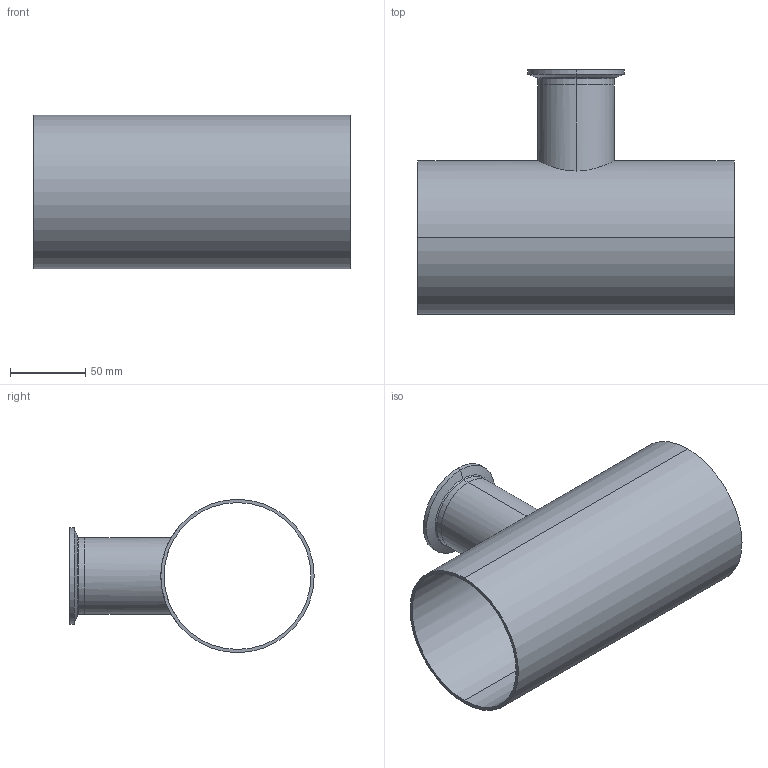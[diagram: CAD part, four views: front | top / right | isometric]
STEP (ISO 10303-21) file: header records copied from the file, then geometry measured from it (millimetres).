
FILE_DESCRIPTION (( 'STEP AP214' ), '1' );
FILE_NAME ('TE7RWWC6L4.0x2.0-...STEP', '2016-05-23T09:35:32', ( 'eran' ), ( '' ), 'SwSTEP 2.0', 'SolidWorks 2016', '' );
FILE_SCHEMA (( 'AUTOMOTIVE_DESIGN' ));
Length unit declared in the file: millimetre
Products named in the file (1): TE7RWWC6L4.0x2.0-..
Bounding box: 209.6 x 161.9 x 101.6 mm (x, y, z)
Volume: 155018 mm3; surface area: 151317.8 mm2
Topology: 2 solids, 2 shells, 36 faces, 88 edges, 58 vertices
Faces by surface type: cylinder 14, bspline 10, plane 6, cone 6
Entity records: 2076 total; most frequent: CARTESIAN_POINT 1171, DIRECTION 190, ORIENTED_EDGE 176, EDGE_CURVE 88, AXIS2_PLACEMENT_3D 85, VERTEX_POINT 58, CIRCLE 58, EDGE_LOOP 44
